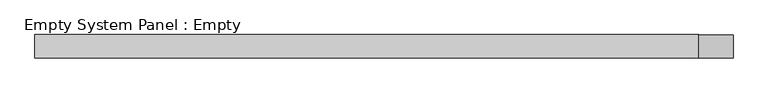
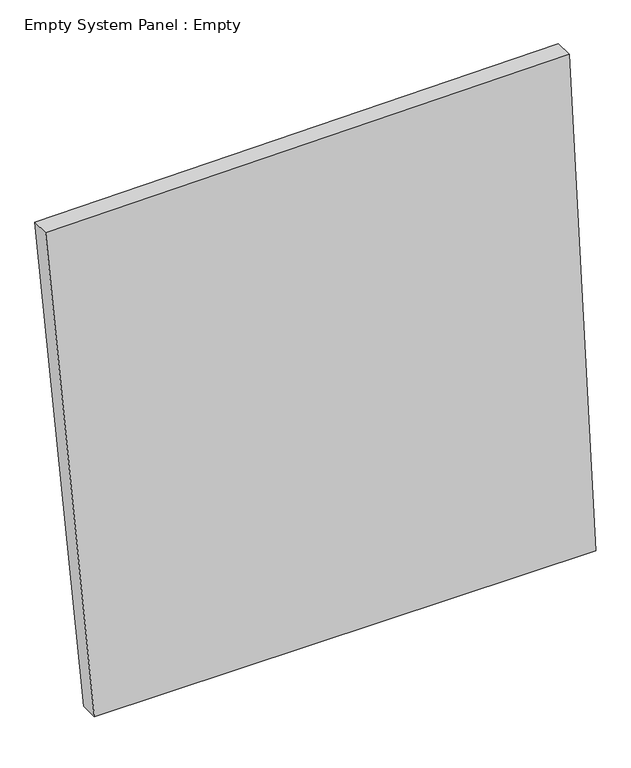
"""IFC4 building model written with IfcOpenShell, lengths in millimetres: plate geometry, Empty System Panel : Empty."""

from ifc_helpers import new_model, si_unit, frame, origin, place, context, project, spatial, polyline, outline, extrude, source, transform, mapped, element, save


def empty_system_panel_empty_b1902880(model_context):
    return source(origin(), model_context, "Body", "SweptSolid", [
        extrude(outline(polyline([(0.0, -1247.7436356), (0.0, 1516.4827543), (2943.8488125, 1368.1599291), (2914.0976273, -1516.4827543), (0.0, -1247.7436356)])), frame((0.0, -50.8, 0.0), z_axis=(0.0, 1.0, 0.0), x_axis=(0.0, 0.0, 1.0)), (0.0, 0.0, 1.0), 101.6),
    ])


if __name__ == "__main__":
    model = new_model("IFC4")
    model_context = context("Model", 3, world=origin())
    ifc_project = project(units=[si_unit("LENGTHUNIT", "METRE", prefix="MILLI")], contexts=[model_context])
    site = spatial("IfcSite", under=ifc_project)
    building = spatial("IfcBuilding", under=site)
    placement = place(None, origin())
    empty_system_panel_empty_shape = empty_system_panel_empty_b1902880(model_context)
    element("IfcPlate", 1, ObjectType="Empty System Panel : Empty", at=placement, inside=building, context=model_context, shape_type="MappedRepresentation", body=[
        mapped(empty_system_panel_empty_shape, transform((0.0, 0.0, 0.0), x_axis=(1.0, 0.0, 0.0), y_axis=(0.0, 1.0, 0.0), z_axis=(0.0, 0.0, 1.0))),
    ])
    save(model, "model.ifc")
